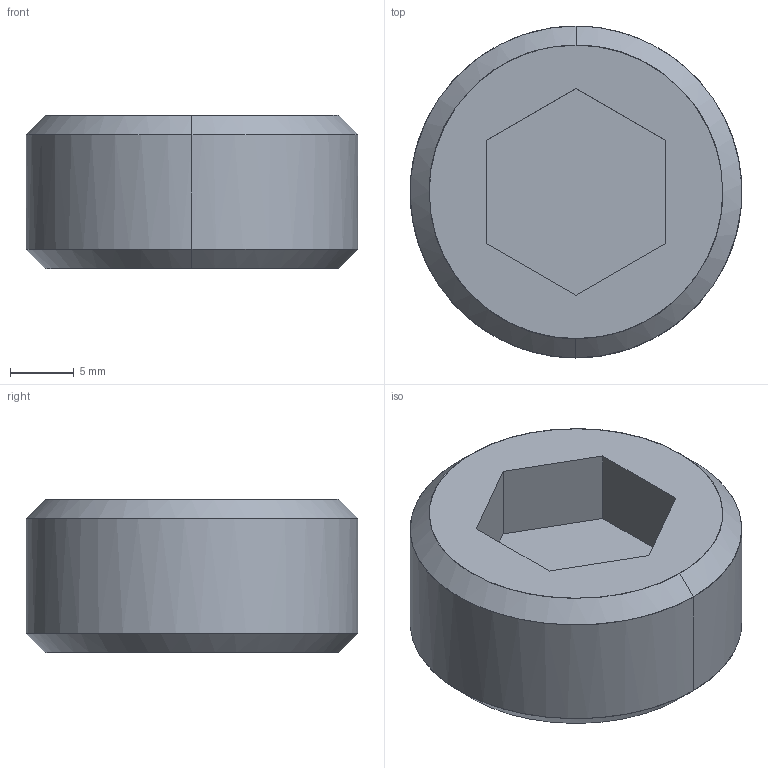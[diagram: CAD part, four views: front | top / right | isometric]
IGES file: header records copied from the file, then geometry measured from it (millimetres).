
Global section: file name: E:\UnigraphicsGraphicData\MISUMI_PRESS-PARTS\IGES\3d_msw26_00514_r00.igs; native system: NX V5.0; preprocessor: UGS NX IGES V5.0; author: MISUMI; date: 20110105.161522; units: millimetre
Bounding box: 25.97 x 26 x 12 mm (x, y, z)
Surface area: 2186.4 mm2 (no closed solid volume)
Topology: 0 solids, 0 shells, 15 faces, 76 edges, 76 vertices
Faces by surface type: bspline 15
